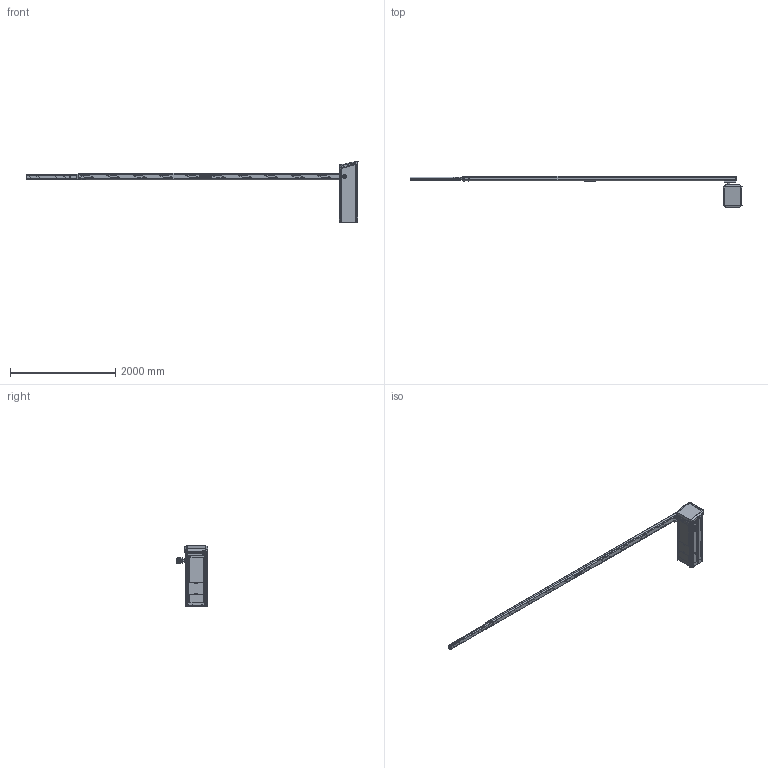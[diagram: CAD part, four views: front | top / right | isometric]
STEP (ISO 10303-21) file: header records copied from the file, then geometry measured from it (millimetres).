
FILE_DESCRIPTION(/* description */ ('Unknown'),/* implementation_level */ '2;1');
FILE_NAME(/* name */ '55860011_01',/* time_stamp */ '2023-03-06T09:39:32+01:00',/* author */ ('Unknown'),/* organization */ ('Unknown'),/* preprocessor_version */ 'ST-DEVELOPER v18.102',/* originating_system */ 'Solid Edge',/* authorisation */ 'Unknown');
FILE_SCHEMA (('AUTOMOTIVE_DESIGN {1 0 10303 214 3 1 1}'));
Products named in the file (92): 55860011; 55860005_Baum_6000; 55155426_6001; 20115047; 20635405_oa_0; 20115040; 55155426_6001_oa_1; 20115008; 20185229; 20185227; 34915000; 34775000; 20180409; 34595007; ACCESS XXL-L-HUELLE_oa_2; 20165183; 20775066; 20615330; 20415099; 20195101; 20415102; 20415100; 20405900; 20615330_720_3.725_Kehlnaht 24_oa_3; 20615330_720_3.725_Kehlnaht 24_oa_4; Schweissmutter_DIN929_M5; 20615330_720_3.725_Kehlnaht 24_oa_5; 20615330_720_3.725_Kehlnaht 24_oa_6; 20615330_720_3.725_Kehlnaht 24_oa_7; 20615330_720_3.725_Kehlnaht 24_oa_8; 20615330_720_3.725_Kehlnaht 24_oa_9; 20615330_720_3.725_Kehlnaht 24_oa_10; 20475126; 20615330_720_3.725_Kehlnaht 24_oa_11; 20615330_720_3.725_Kehlnaht 24_oa_12; 20615330_720_3.725_Kehlnaht 24_oa_13; 20615330_720_3.725_Kehlnaht 24_oa_14; 20615330_720_3.725_Kehlnaht 24_oa_15; 20615330_720_3.725_Kehlnaht 24_oa_16; 20615330_720_3.725_Kehlnaht 24_oa_17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
Assembly tree (159 placements, depth 5):
  55860011
    55860005_Baum_6000
      55155426_6001
        20115047
        20635405_oa_0
        20115040
        55155426_6001_oa_1
        20115008
        20185229  x12
        20185227  x12
        34915000  x4
        34775000  x12
        20180409  x2
        34595007
    ACCESS XXL-L-HUELLE_oa_2
      20165183
      20775066  x2
      20615330
        20415099
        20195101  x2
        20415102
        20415100  x2
        20405900
        20615330_720_3.725_Kehlnaht 24_oa_3
        20615330_720_3.725_Kehlnaht 24_oa_4
        Schweissmutter_DIN929_M5  x4
        20615330_720_3.725_Kehlnaht 24_oa_5
        20615330_720_3.725_Kehlnaht 24_oa_6
        20615330_720_3.725_Kehlnaht 24_oa_7
        20615330_720_3.725_Kehlnaht 24_oa_8
        20615330_720_3.725_Kehlnaht 24_oa_9
        20615330_720_3.725_Kehlnaht 24_oa_10
        20475126
        20615330_720_3.725_Kehlnaht 24_oa_11
        20615330_720_3.725_Kehlnaht 24_oa_12
        20615330_720_3.725_Kehlnaht 24_oa_13
        20615330_720_3.725_Kehlnaht 24_oa_14
        20615330_720_3.725_Kehlnaht 24_oa_15
        20615330_720_3.725_Kehlnaht 24_oa_16
        20615330_720_3.725_Kehlnaht 24_oa_17
        Einpress-Gewindebolzen_PEM_FH_M6x18  x4
        Einpressmutter_KVT_S_M8_2  x8
        Einpress-Gewindebolzen-M6x25  x3
        20475139_oa_18
        Einpress-Gewindebolzen-M6x16  x4
        20615330_720_3.725_Kehlnaht 24_oa_19
        20615330_720_3.725_Kehlnaht 24_oa_20
        20615330_720_3.725_Kehlnaht 24_oa_21
        20475140
        20475139
        20615330_720_3.725_Kehlnaht 24_oa_22
        20615330_720_3.725_Kehlnaht 24_oa_23
      10345006  x2
        32320016
          32320016_a
          32320016_c
          32320016_b
        20045112
      10145086_oa_24
        20525332
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Bounding box: 6303.56 x 600.5 x 1164.34 mm (x, y, z)
Volume: 18953570.3 mm3; surface area: 12546363.2 mm2
Topology: 189 solids, 189 shells, 6220 faces, 15922 edges, 10220 vertices
Faces by surface type: plane 3322, cylinder 1805, bspline 490, cone 292, torus 241, sphere 70
Full cylindrical faces by diameter (mm): 1.5 x3, 1.8 x2, 2.5 x1, 3 x7, 3.459 x2, 3.5 x5, 3.6 x2, 3.65 x4, 3.9 x9, 4.134 x4, 4.3 x1, 4.5 x1, 4.917 x1, 5.5 x9, 5.6 x1, 6 x39, 6.647 x20, 6.973 x11, 7 x12, 7.1 x6, 8 x12, 8.1 x2, 8.5 x4, 9 x12, 10.47 x8, 10.5 x12, 12 x1, 12.347 x8, 12.65 x8, 13 x8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
Entity records: 135090 total; most frequent: CARTESIAN_POINT 29077, DIRECTION 19932, ORIENTED_EDGE 19918, EDGE_CURVE 9959, AXIS2_PLACEMENT_3D 6733, VERTEX_POINT 6609, LINE 6466, VECTOR 6466
